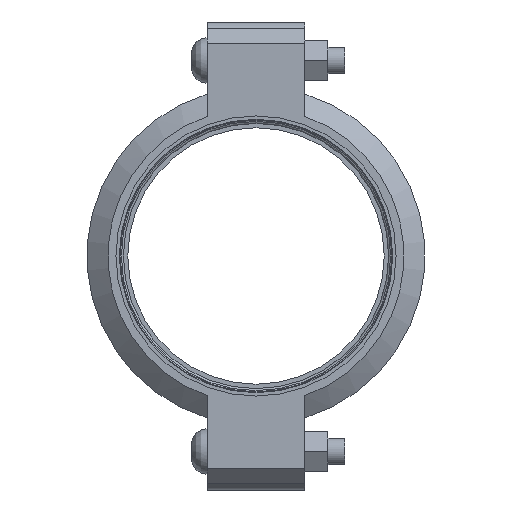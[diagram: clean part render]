
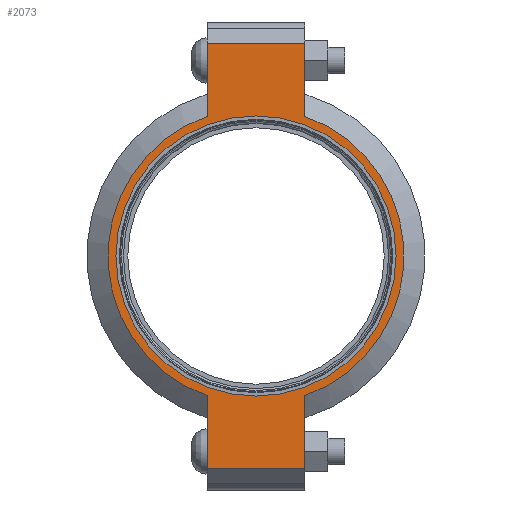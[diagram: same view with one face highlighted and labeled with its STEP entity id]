
A CAD part, left-side view. The second image highlights one B-rep face of the part: STEP entity #2073.
In plain terms, the highlighted planar face has unit normal (-1, 0, 0) as drawn and (0, 0, 1) by its records, which use the part's own axes.
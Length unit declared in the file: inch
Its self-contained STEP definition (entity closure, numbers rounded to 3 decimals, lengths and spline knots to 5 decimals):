
#206=LINE('',#3696,#305);
#214=LINE('',#3732,#313);
#221=LINE('',#3753,#320);
#230=LINE('',#3785,#329);
#231=LINE('',#3789,#330);
#232=LINE('',#3791,#331);
#305=VECTOR('',#3022,0.3937);
#313=VECTOR('',#3038,0.3937);
#320=VECTOR('',#3057,0.3937);
#329=VECTOR('',#3082,0.3937);
#330=VECTOR('',#3087,0.3937);
#331=VECTOR('',#3088,0.3937);
#391=FACE_BOUND('',#661,.T.);
#437=PLANE('',#2438);
#533=FACE_OUTER_BOUND('',#660,.T.);
#660=EDGE_LOOP('',(#1802,#1803,#1804,#1805,#1806,#1807,#1808,#1809));
#661=EDGE_LOOP('',(#1810));
#808=CIRCLE('',#2380,3.3125);
#834=CIRCLE('',#2439,3.5);
#835=CIRCLE('',#2440,3.5);
#959=VERTEX_POINT('',#3512);
#1002=VERTEX_POINT('',#3693);
#1003=VERTEX_POINT('',#3695);
#1014=VERTEX_POINT('',#3727);
#1015=VERTEX_POINT('',#3731);
#1022=VERTEX_POINT('',#3750);
#1023=VERTEX_POINT('',#3752);
#1033=VERTEX_POINT('',#3788);
#1034=VERTEX_POINT('',#3790);
#1196=EDGE_CURVE('',#959,#959,#808,.T.);
#1257=EDGE_CURVE('',#1003,#1002,#206,.T.);
#1271=EDGE_CURVE('',#1015,#1014,#214,.T.);
#1281=EDGE_CURVE('',#1023,#1022,#221,.T.);
#1296=EDGE_CURVE('',#1015,#1002,#230,.T.);
#1297=EDGE_CURVE('',#1014,#1023,#834,.T.);
#1298=EDGE_CURVE('',#1033,#1022,#231,.T.);
#1299=EDGE_CURVE('',#1033,#1034,#232,.T.);
#1300=EDGE_CURVE('',#1034,#1003,#835,.T.);
#1802=ORIENTED_EDGE('',*,*,#1296,.F.);
#1803=ORIENTED_EDGE('',*,*,#1271,.T.);
#1804=ORIENTED_EDGE('',*,*,#1297,.T.);
#1805=ORIENTED_EDGE('',*,*,#1281,.T.);
#1806=ORIENTED_EDGE('',*,*,#1298,.F.);
#1807=ORIENTED_EDGE('',*,*,#1299,.T.);
#1808=ORIENTED_EDGE('',*,*,#1300,.T.);
#1809=ORIENTED_EDGE('',*,*,#1257,.T.);
#1810=ORIENTED_EDGE('',*,*,#1196,.T.);
#2073=ADVANCED_FACE('',(#533,#391),#437,.T.);
#2380=AXIS2_PLACEMENT_3D('',#3514,#2898,#2899);
#2438=AXIS2_PLACEMENT_3D('',#3786,#3083,#3084);
#2439=AXIS2_PLACEMENT_3D('',#3787,#3085,#3086);
#2440=AXIS2_PLACEMENT_3D('',#3792,#3089,#3090);
#2898=DIRECTION('center_axis',(0.,0.,-1.));
#2899=DIRECTION('ref_axis',(1.,0.,0.));
#3022=DIRECTION('',(1.,0.,0.));
#3038=DIRECTION('',(-1.,0.,0.));
#3057=DIRECTION('',(-1.,0.,0.));
#3082=DIRECTION('',(0.,-1.,0.));
#3083=DIRECTION('center_axis',(0.,0.,1.));
#3084=DIRECTION('ref_axis',(-1.,0.,0.));
#3085=DIRECTION('center_axis',(0.,0.,1.));
#3086=DIRECTION('ref_axis',(1.,0.,0.));
#3087=DIRECTION('',(0.,1.,0.));
#3088=DIRECTION('',(1.,0.,0.));
#3089=DIRECTION('center_axis',(0.,0.,1.));
#3090=DIRECTION('ref_axis',(1.,0.,0.));
#3512=CARTESIAN_POINT('',(-3.3125,0.,1.065));
#3514=CARTESIAN_POINT('Origin',(0.,0.,1.065));
#3693=CARTESIAN_POINT('',(5.035,-1.156,1.065));
#3695=CARTESIAN_POINT('',(3.30358,-1.156,1.065));
#3696=CARTESIAN_POINT('',(5.535,-1.156,1.065));
#3727=CARTESIAN_POINT('',(3.30358,1.156,1.065));
#3731=CARTESIAN_POINT('',(5.035,1.156,1.065));
#3732=CARTESIAN_POINT('',(-5.535,1.156,1.065));
#3750=CARTESIAN_POINT('',(-5.035,1.156,1.065));
#3752=CARTESIAN_POINT('',(-3.30358,1.156,1.065));
#3753=CARTESIAN_POINT('',(-5.535,1.156,1.065));
#3785=CARTESIAN_POINT('',(5.035,-0.578,1.065));
#3786=CARTESIAN_POINT('Origin',(0.,0.,
1.065));
#3787=CARTESIAN_POINT('Origin',(0.,0.,1.065));
#3788=CARTESIAN_POINT('',(-5.035,-1.156,1.065));
#3789=CARTESIAN_POINT('',(-5.035,0.578,1.065));
#3790=CARTESIAN_POINT('',(-3.30358,-1.156,1.065));
#3791=CARTESIAN_POINT('',(5.535,-1.156,1.065));
#3792=CARTESIAN_POINT('Origin',(0.,0.,1.065));
